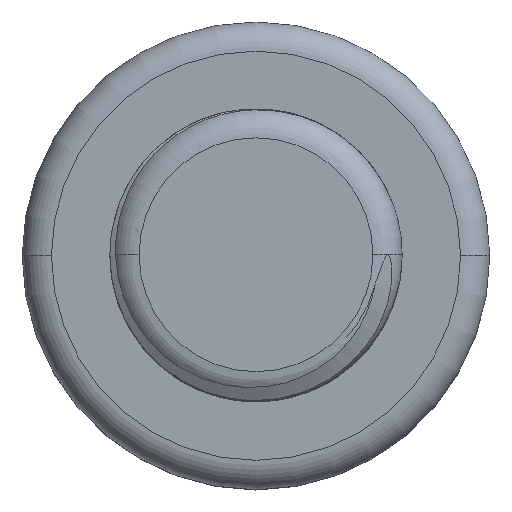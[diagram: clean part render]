
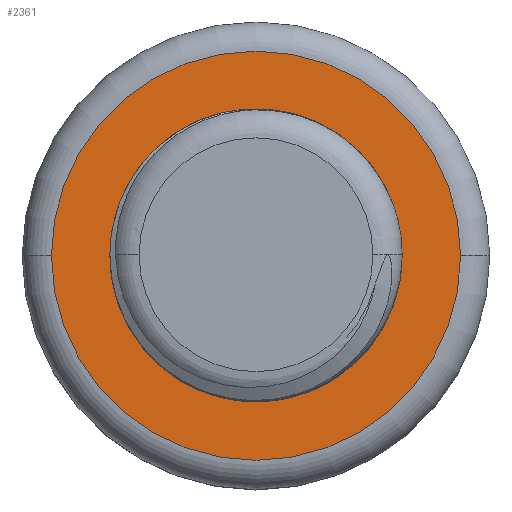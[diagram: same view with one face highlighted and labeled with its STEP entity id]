
A CAD part, top view. The second image highlights one B-rep face of the part: STEP entity #2361.
In plain terms, the highlighted planar face has unit normal (0, 0, 1).
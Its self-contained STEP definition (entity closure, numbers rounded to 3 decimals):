
#231 = DIRECTION ( 'NONE',  ( 1., 0., 0. ) ) ;
#241 = VERTEX_POINT ( 'NONE', #1406 ) ;
#286 = ORIENTED_EDGE ( 'NONE', *, *, #1240, .T. ) ;
#290 = DIRECTION ( 'NONE',  ( 1., 0., 0. ) ) ;
#406 = CIRCLE ( 'NONE', #2138, 3.5 ) ;
#451 = VERTEX_POINT ( 'NONE', #940 ) ;
#521 = DIRECTION ( 'NONE',  ( 0., 0., 1. ) ) ;
#588 = DIRECTION ( 'NONE',  ( 0., 0., 1. ) ) ;
#598 = EDGE_CURVE ( 'NONE', #451, #725, #1605, .T. ) ;
#638 = CIRCLE ( 'NONE', #2708, 2.5 ) ;
#725 = VERTEX_POINT ( 'NONE', #1445 ) ;
#809 = CARTESIAN_POINT ( 'NONE',  ( 0., 0., 5. ) ) ;
#834 = EDGE_LOOP ( 'NONE', ( #990, #1109 ) ) ;
#940 = CARTESIAN_POINT ( 'NONE',  ( -2.5, 0., 5. ) ) ;
#990 = ORIENTED_EDGE ( 'NONE', *, *, #598, .F. ) ;
#1088 = CARTESIAN_POINT ( 'NONE',  ( 3.5, 0., 5. ) ) ;
#1109 = ORIENTED_EDGE ( 'NONE', *, *, #1725, .F. ) ;
#1156 = CARTESIAN_POINT ( 'NONE',  ( 0., 0., 5. ) ) ;
#1240 = EDGE_CURVE ( 'NONE', #1262, #241, #1882, .T. ) ;
#1262 = VERTEX_POINT ( 'NONE', #1088 ) ;
#1265 = EDGE_CURVE ( 'NONE', #241, #1262, #406, .T. ) ;
#1351 = DIRECTION ( 'NONE',  ( 1., 0., 0. ) ) ;
#1393 = EDGE_LOOP ( 'NONE', ( #286, #1578 ) ) ;
#1406 = CARTESIAN_POINT ( 'NONE',  ( -3.5, 0., 5. ) ) ;
#1445 = CARTESIAN_POINT ( 'NONE',  ( 2.5, 0., 5. ) ) ;
#1578 = ORIENTED_EDGE ( 'NONE', *, *, #1265, .T. ) ;
#1605 = CIRCLE ( 'NONE', #2048, 2.5 ) ;
#1623 = DIRECTION ( 'NONE',  ( 0., 0., 1. ) ) ;
#1690 = AXIS2_PLACEMENT_3D ( 'NONE', #1156, #588, #290 ) ;
#1725 = EDGE_CURVE ( 'NONE', #725, #451, #638, .T. ) ;
#1774 = DIRECTION ( 'NONE',  ( 1., 0., 0. ) ) ;
#1793 = DIRECTION ( 'NONE',  ( 1., 0., 0. ) ) ;
#1882 = CIRCLE ( 'NONE', #1690, 3.5 ) ;
#1898 = CARTESIAN_POINT ( 'NONE',  ( 0., 0., 5. ) ) ;
#2016 = FACE_OUTER_BOUND ( 'NONE', #1393, .T. ) ;
#2048 = AXIS2_PLACEMENT_3D ( 'NONE', #1898, #1623, #1351 ) ;
#2054 = DIRECTION ( 'NONE',  ( 0., 0., 1. ) ) ;
#2073 = DIRECTION ( 'NONE',  ( 0., 0., 1. ) ) ;
#2138 = AXIS2_PLACEMENT_3D ( 'NONE', #809, #521, #231 ) ;
#2173 = FACE_BOUND ( 'NONE', #834, .T. ) ;
#2306 = AXIS2_PLACEMENT_3D ( 'NONE', #2346, #2054, #1774 ) ;
#2346 = CARTESIAN_POINT ( 'NONE',  ( 0., 0., 5. ) ) ;
#2361 = ADVANCED_FACE ( 'NONE', ( #2016, #2173 ), #2607, .T. ) ;
#2365 = CARTESIAN_POINT ( 'NONE',  ( 0., 0., 5. ) ) ;
#2607 = PLANE ( 'NONE',  #2306 ) ;
#2708 = AXIS2_PLACEMENT_3D ( 'NONE', #2365, #2073, #1793 ) ;
